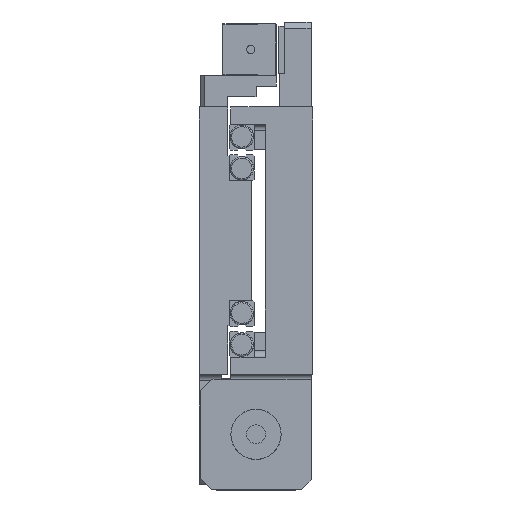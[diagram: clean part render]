
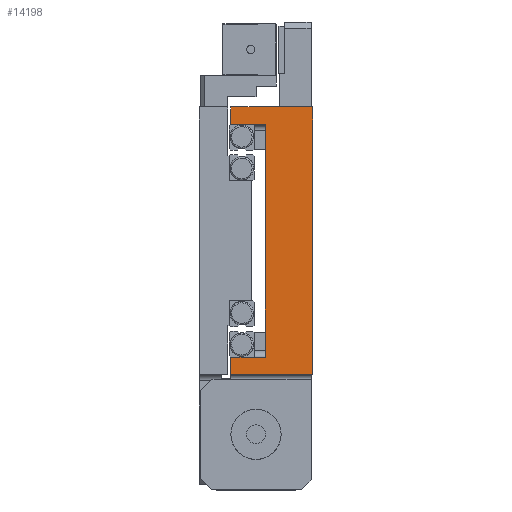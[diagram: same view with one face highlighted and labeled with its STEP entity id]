
A CAD part, left-side view. The second image highlights one B-rep face of the part: STEP entity #14198.
In plain terms, the highlighted planar face has unit normal (-1, 0, 0).
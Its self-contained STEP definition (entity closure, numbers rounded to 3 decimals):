
#1391 = CARTESIAN_POINT ( 'NONE',  ( -240., 0., -42.5 ) ) ;
#1567 = PLANE ( 'NONE',  #33676 ) ;
#1638 = VECTOR ( 'NONE', #15520, 1000. ) ;
#1763 = DIRECTION ( 'NONE',  ( 1., 0., 0. ) ) ;
#1946 = DIRECTION ( 'NONE',  ( 0., 1., 0. ) ) ;
#2289 = CARTESIAN_POINT ( 'NONE',  ( -240., 26., 37. ) ) ;
#2589 = ORIENTED_EDGE ( 'NONE', *, *, #9000, .F. ) ;
#2947 = DIRECTION ( 'NONE',  ( 0., 0., 1. ) ) ;
#3736 = ORIENTED_EDGE ( 'NONE', *, *, #20344, .F. ) ;
#4915 = CARTESIAN_POINT ( 'NONE',  ( -240., 15., -37. ) ) ;
#5801 = VECTOR ( 'NONE', #11747, 1000. ) ;
#6294 = VERTEX_POINT ( 'NONE', #23065 ) ;
#7260 = DIRECTION ( 'NONE',  ( 0., 0., 1. ) ) ;
#7306 = CARTESIAN_POINT ( 'NONE',  ( -240., 26., 42.5 ) ) ;
#7468 = LINE ( 'NONE', #32857, #25105 ) ;
#7706 = VECTOR ( 'NONE', #7260, 1000. ) ;
#7756 = DIRECTION ( 'NONE',  ( 0., 1., 0. ) ) ;
#8340 = ORIENTED_EDGE ( 'NONE', *, *, #12526, .T. ) ;
#9000 = EDGE_CURVE ( 'NONE', #16373, #31531, #21091, .T. ) ;
#9242 = EDGE_LOOP ( 'NONE', ( #19568, #19383, #2589, #3736, #8340, #18304, #15503, #26920 ) ) ;
#9535 = VERTEX_POINT ( 'NONE', #4915 ) ;
#10329 = LINE ( 'NONE', #21574, #1638 ) ;
#10609 = CARTESIAN_POINT ( 'NONE',  ( -240., 18.5, -37. ) ) ;
#11747 = DIRECTION ( 'NONE',  ( 0., 0., 1. ) ) ;
#12008 = VECTOR ( 'NONE', #7756, 1000. ) ;
#12526 = EDGE_CURVE ( 'NONE', #28125, #6294, #31036, .T. ) ;
#12666 = DIRECTION ( 'NONE',  ( 0., 0., 1. ) ) ;
#13014 = DIRECTION ( 'NONE',  ( 0., 0., -1. ) ) ;
#13037 = LINE ( 'NONE', #7306, #15721 ) ;
#14198 = ADVANCED_FACE ( 'NONE', ( #35070 ), #1567, .F. ) ;
#14525 = CARTESIAN_POINT ( 'NONE',  ( -240., 15., -29. ) ) ;
#15503 = ORIENTED_EDGE ( 'NONE', *, *, #18936, .F. ) ;
#15520 = DIRECTION ( 'NONE',  ( 0., -1., 0. ) ) ;
#15721 = VECTOR ( 'NONE', #12666, 1000. ) ;
#16373 = VERTEX_POINT ( 'NONE', #27904 ) ;
#18304 = ORIENTED_EDGE ( 'NONE', *, *, #20214, .F. ) ;
#18936 = EDGE_CURVE ( 'NONE', #21414, #20652, #13037, .T. ) ;
#19383 = ORIENTED_EDGE ( 'NONE', *, *, #25655, .T. ) ;
#19568 = ORIENTED_EDGE ( 'NONE', *, *, #26645, .F. ) ;
#20214 = EDGE_CURVE ( 'NONE', #20652, #6294, #10329, .T. ) ;
#20344 = EDGE_CURVE ( 'NONE', #28125, #16373, #21769, .T. ) ;
#20652 = VERTEX_POINT ( 'NONE', #36422 ) ;
#21091 = LINE ( 'NONE', #32451, #7706 ) ;
#21414 = VERTEX_POINT ( 'NONE', #2289 ) ;
#21478 = DIRECTION ( 'NONE',  ( 0., 1., 0. ) ) ;
#21574 = CARTESIAN_POINT ( 'NONE',  ( -240., 26., 42.5 ) ) ;
#21769 = LINE ( 'NONE', #32961, #12008 ) ;
#23065 = CARTESIAN_POINT ( 'NONE',  ( -240., 0., 42.5 ) ) ;
#25105 = VECTOR ( 'NONE', #21478, 1000. ) ;
#25655 = EDGE_CURVE ( 'NONE', #9535, #31531, #33584, .T. ) ;
#26645 = EDGE_CURVE ( 'NONE', #9535, #29314, #28157, .T. ) ;
#26920 = ORIENTED_EDGE ( 'NONE', *, *, #29234, .F. ) ;
#27904 = CARTESIAN_POINT ( 'NONE',  ( -240., 26., -42.5 ) ) ;
#28118 = CARTESIAN_POINT ( 'NONE',  ( -240., 0., 42.5 ) ) ;
#28125 = VERTEX_POINT ( 'NONE', #1391 ) ;
#28157 = LINE ( 'NONE', #14525, #35966 ) ;
#29234 = EDGE_CURVE ( 'NONE', #29314, #21414, #7468, .T. ) ;
#29314 = VERTEX_POINT ( 'NONE', #33746 ) ;
#29816 = CARTESIAN_POINT ( 'NONE',  ( -240., 26., -37. ) ) ;
#31036 = LINE ( 'NONE', #28118, #5801 ) ;
#31531 = VERTEX_POINT ( 'NONE', #29816 ) ;
#31901 = CARTESIAN_POINT ( 'NONE',  ( -240., 26., 42.5 ) ) ;
#32451 = CARTESIAN_POINT ( 'NONE',  ( -240., 26., 42.5 ) ) ;
#32857 = CARTESIAN_POINT ( 'NONE',  ( -240., 18.5, 37. ) ) ;
#32961 = CARTESIAN_POINT ( 'NONE',  ( -240., 0., -42.5 ) ) ;
#33505 = VECTOR ( 'NONE', #1946, 1000. ) ;
#33584 = LINE ( 'NONE', #10609, #33505 ) ;
#33676 = AXIS2_PLACEMENT_3D ( 'NONE', #31901, #1763, #13014 ) ;
#33746 = CARTESIAN_POINT ( 'NONE',  ( -240., 15., 37. ) ) ;
#35070 = FACE_OUTER_BOUND ( 'NONE', #9242, .T. ) ;
#35966 = VECTOR ( 'NONE', #2947, 1000. ) ;
#36422 = CARTESIAN_POINT ( 'NONE',  ( -240., 26., 42.5 ) ) ;
